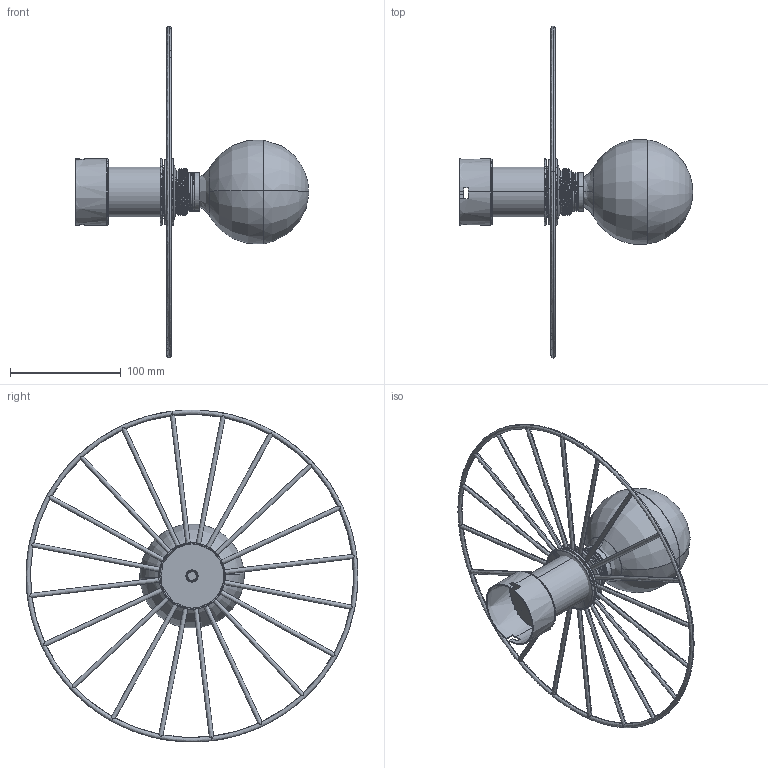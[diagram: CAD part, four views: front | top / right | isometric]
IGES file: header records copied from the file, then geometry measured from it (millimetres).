
Start section: SolidWorks IGES file using analytic representation for surfaces
Global section: file name: C:\Users\Agus\Desktop\Libreria modelos\1052 - Wheel\A1053+A1052\30\R1052-30.IGS; native system: SolidWorks 2016; preprocessor: SolidWorks 2016; author: Agus; date: 170601.104036; units: millimetre
Bounding box: 210.9 x 299.96 x 299.92 mm (x, y, z)
Surface area: 150543.4 mm2 (no closed solid volume)
Topology: 0 solids, 0 shells, 333 faces, 7308 edges, 7307 vertices
Faces by surface type: revolution 191, bspline 142
